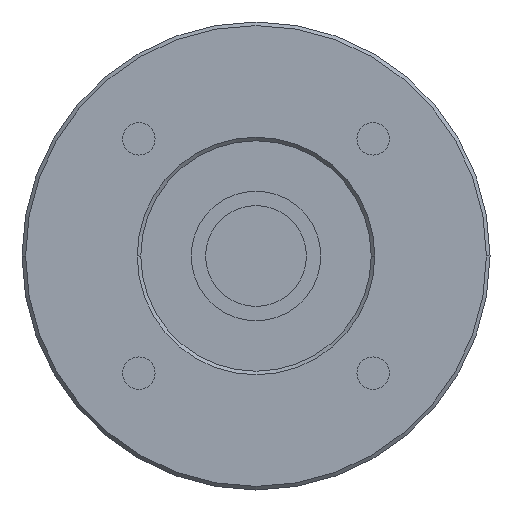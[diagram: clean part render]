
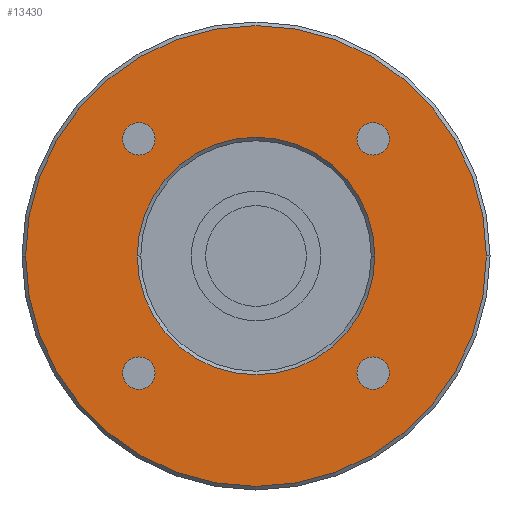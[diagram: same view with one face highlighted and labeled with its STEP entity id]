
A CAD part, left-side view. The second image highlights one B-rep face of the part: STEP entity #13430.
In plain terms, the highlighted planar face has unit normal (-1, 0, 0) as drawn and (0, 0, -1) by its records, which use the part's own axes.
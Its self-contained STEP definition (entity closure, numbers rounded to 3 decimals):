
#12100=CARTESIAN_POINT('',(-16.5,0.,-35.));
#12110=VERTEX_POINT('',#12100);
#12140=CARTESIAN_POINT('',(0.,0.,
-35.));
#12150=DIRECTION('',(0.,0.,-1.));
#12160=DIRECTION('',(0.,-1.,0.));
#12170=AXIS2_PLACEMENT_3D('',#12140,#12150,#12160);
#12180=CIRCLE('',#12170,16.5);
#12190=CARTESIAN_POINT('',(0.,-16.5,-35.));
#12200=VERTEX_POINT('',#12190);
#12210=EDGE_CURVE('',#12200,#12110,#12180,.T.);
#12230=CARTESIAN_POINT('',(16.5,0.,-35.));
#12240=VERTEX_POINT('',#12230);
#12250=EDGE_CURVE('',#12240,#12200,#12180,.T.);
#12370=CARTESIAN_POINT('',(0.,0.,
-35.));
#12380=DIRECTION('',(0.,0.,-1.));
#12390=DIRECTION('',(0.,-1.,0.));
#12400=AXIS2_PLACEMENT_3D('',#12370,#12380,#12390);
#12410=PLANE('',#12400);
#12420=CARTESIAN_POINT('',(-16.263,-16.263,-35.));
#12430=DIRECTION('',(0.,0.,-1.));
#12440=DIRECTION('',(1.,0.,0.));
#12450=AXIS2_PLACEMENT_3D('',#12420,#12430,#12440);
#12460=CIRCLE('',#12450,2.25);
#12470=CARTESIAN_POINT('',(-14.013,-16.263,-35.));
#12480=VERTEX_POINT('',#12470);
#12490=CARTESIAN_POINT('',(-16.263,-18.513,-35.));
#12500=VERTEX_POINT('',#12490);
#12510=EDGE_CURVE('',#12480,#12500,#12460,.T.);
#12520=ORIENTED_EDGE('',*,*,#12510,.F.);
#12530=CARTESIAN_POINT('',(-16.263,-14.013,-35.));
#12540=VERTEX_POINT('',#12530);
#12550=EDGE_CURVE('',#12500,#12540,#12460,.T.);
#12560=ORIENTED_EDGE('',*,*,#12550,.F.);
#12570=EDGE_CURVE('',#12540,#12480,#12460,.T.);
#12580=ORIENTED_EDGE('',*,*,#12570,.F.);
#12590=EDGE_LOOP('',(#12580,#12560,#12520));
#12600=FACE_BOUND('',#12590,.T.);
#12610=CARTESIAN_POINT('',(-16.263,16.263,-35.));
#12620=DIRECTION('',(0.,0.,-1.));
#12630=DIRECTION('',(1.,0.,0.));
#12640=AXIS2_PLACEMENT_3D('',#12610,#12620,#12630);
#12650=CIRCLE('',#12640,2.25);
#12660=CARTESIAN_POINT('',(-14.013,16.263,-35.));
#12670=VERTEX_POINT('',#12660);
#12680=CARTESIAN_POINT('',(-16.263,14.013,-35.));
#12690=VERTEX_POINT('',#12680);
#12700=EDGE_CURVE('',#12670,#12690,#12650,.T.);
#12710=ORIENTED_EDGE('',*,*,#12700,.F.);
#12720=CARTESIAN_POINT('',(-16.263,18.513,-35.));
#12730=VERTEX_POINT('',#12720);
#12740=EDGE_CURVE('',#12690,#12730,#12650,.T.);
#12750=ORIENTED_EDGE('',*,*,#12740,.F.);
#12760=EDGE_CURVE('',#12730,#12670,#12650,.T.);
#12770=ORIENTED_EDGE('',*,*,#12760,.F.);
#12780=EDGE_LOOP('',(#12770,#12750,#12710));
#12790=FACE_BOUND('',#12780,.T.);
#12800=CARTESIAN_POINT('',(16.263,16.263,-35.));
#12810=DIRECTION('',(0.,0.,-1.));
#12820=DIRECTION('',(1.,0.,0.));
#12830=AXIS2_PLACEMENT_3D('',#12800,#12810,#12820);
#12840=CIRCLE('',#12830,2.25);
#12850=CARTESIAN_POINT('',(18.513,16.263,-35.));
#12860=VERTEX_POINT('',#12850);
#12870=CARTESIAN_POINT('',(16.263,14.013,-35.));
#12880=VERTEX_POINT('',#12870);
#12890=EDGE_CURVE('',#12860,#12880,#12840,.T.);
#12900=ORIENTED_EDGE('',*,*,#12890,.F.);
#12910=CARTESIAN_POINT('',(16.263,18.513,-35.));
#12920=VERTEX_POINT('',#12910);
#12930=EDGE_CURVE('',#12880,#12920,#12840,.T.);
#12940=ORIENTED_EDGE('',*,*,#12930,.F.);
#12950=EDGE_CURVE('',#12920,#12860,#12840,.T.);
#12960=ORIENTED_EDGE('',*,*,#12950,.F.);
#12970=EDGE_LOOP('',(#12960,#12940,#12900));
#12980=FACE_BOUND('',#12970,.T.);
#12990=CARTESIAN_POINT('',(16.263,-16.263,-35.));
#13000=DIRECTION('',(0.,0.,-1.));
#13010=DIRECTION('',(1.,0.,0.));
#13020=AXIS2_PLACEMENT_3D('',#12990,#13000,#13010);
#13030=CIRCLE('',#13020,2.25);
#13040=CARTESIAN_POINT('',(18.513,-16.263,-35.));
#13050=VERTEX_POINT('',#13040);
#13060=CARTESIAN_POINT('',(16.263,-18.513,-35.));
#13070=VERTEX_POINT('',#13060);
#13080=EDGE_CURVE('',#13050,#13070,#13030,.T.);
#13090=ORIENTED_EDGE('',*,*,#13080,.F.);
#13100=CARTESIAN_POINT('',(16.263,-14.013,-35.));
#13110=VERTEX_POINT('',#13100);
#13120=EDGE_CURVE('',#13070,#13110,#13030,.T.);
#13130=ORIENTED_EDGE('',*,*,#13120,.F.);
#13140=EDGE_CURVE('',#13110,#13050,#13030,.T.);
#13150=ORIENTED_EDGE('',*,*,#13140,.F.);
#13160=EDGE_LOOP('',(#13150,#13130,#13090));
#13170=FACE_BOUND('',#13160,.T.);
#13180=CARTESIAN_POINT('',(0.,0.,
-35.));
#13190=DIRECTION('',(0.,0.,-1.));
#13200=DIRECTION('',(0.,-1.,0.));
#13210=AXIS2_PLACEMENT_3D('',#13180,#13190,#13200);
#13220=CIRCLE('',#13210,32.);
#13230=CARTESIAN_POINT('',(-32.,0.,-35.));
#13240=VERTEX_POINT('',#13230);
#13250=CARTESIAN_POINT('',(32.,0.,-35.));
#13260=VERTEX_POINT('',#13250);
#13270=EDGE_CURVE('',#13240,#13260,#13220,.T.);
#13280=ORIENTED_EDGE('',*,*,#13270,.T.);
#13290=CARTESIAN_POINT('',(0.,-32.,-35.));
#13300=VERTEX_POINT('',#13290);
#13310=EDGE_CURVE('',#13300,#13240,#13220,.T.);
#13320=ORIENTED_EDGE('',*,*,#13310,.T.);
#13330=EDGE_CURVE('',#13260,#13300,#13220,.T.);
#13340=ORIENTED_EDGE('',*,*,#13330,.T.);
#13350=EDGE_LOOP('',(#13340,#13320,#13280));
#13360=FACE_OUTER_BOUND('',#13350,.T.);
#13370=ORIENTED_EDGE('',*,*,#12210,.F.);
#13380=EDGE_CURVE('',#12110,#12240,#12180,.T.);
#13390=ORIENTED_EDGE('',*,*,#13380,.F.);
#13400=ORIENTED_EDGE('',*,*,#12250,.F.);
#13410=EDGE_LOOP('',(#13400,#13390,#13370));
#13420=FACE_BOUND('',#13410,.T.);
#13430=ADVANCED_FACE('',(#12600,#12790,#12980,#13170,#13360,#13420),
#12410,.T.);
